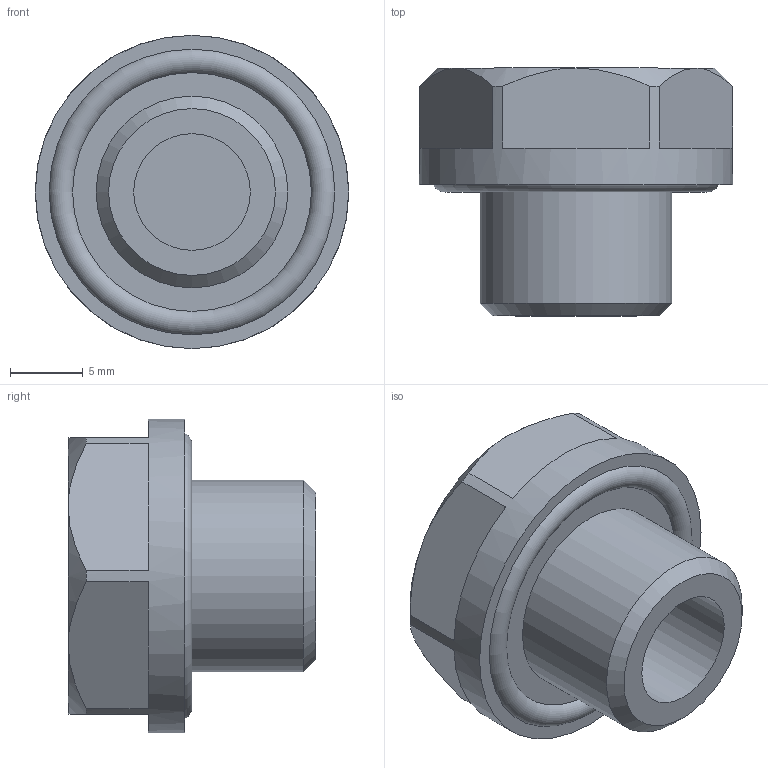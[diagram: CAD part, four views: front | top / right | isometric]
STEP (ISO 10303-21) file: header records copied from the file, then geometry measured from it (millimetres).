
FILE_DESCRIPTION( ( 'STEP AP203' ), '1' );
FILE_NAME( 'C:/Temp/Ganter_Step_05_03_2020/data/3_5/gn740_2/Threaded plug GN 740.2-G1_4.stp', '2020-03-12T13:43:55', ( 'License CC BY-ND 4.0' ), ( 'CADENAS' ), ' ', 'PARTsolutions', ' ' );
FILE_SCHEMA( ( 'CONFIG_CONTROL_DESIGN' ) );
Length unit declared in the file: millimetre
Products named in the file (1): _Threaded plug GN 740.2-G1/4
Bounding box: 21.5 x 17 x 21.5 mm (x, y, z)
Volume: 3077.8 mm3; surface area: 1987.1 mm2
Topology: 1 solids, 1 shells, 57 faces, 141 edges, 92 vertices
Faces by surface type: plane 45, cone 7, cylinder 4, torus 1
Full cylindrical faces by diameter (mm): 8 x1, 13.157 x1, 15 x1, 21.5 x1
Entity records: 1735 total; most frequent: CARTESIAN_POINT 369, ORIENTED_EDGE 266, DIRECTION 265, EDGE_CURVE 133, LINE 93, VECTOR 93, VERTEX_POINT 90, AXIS2_PLACEMENT_3D 86
